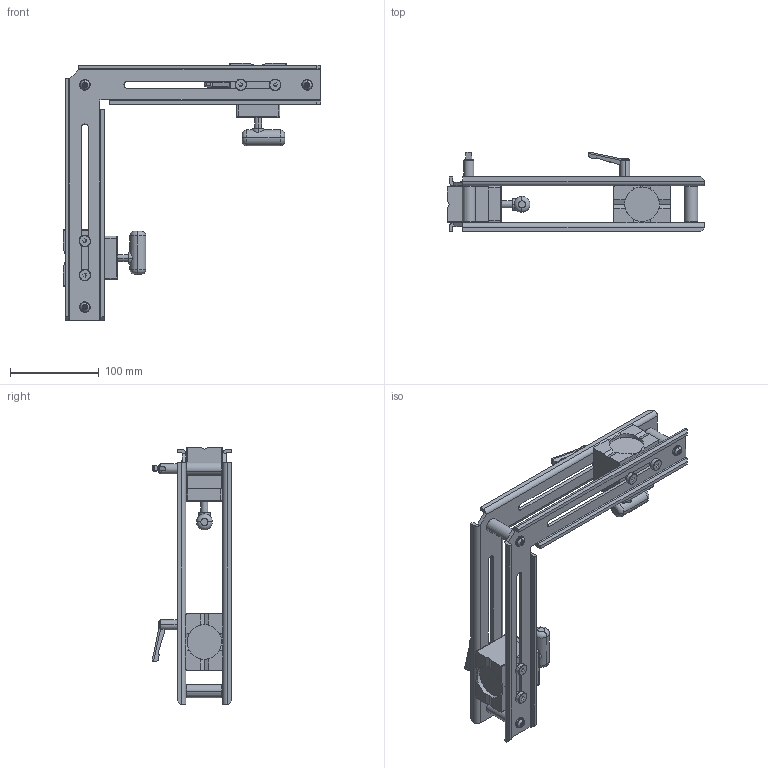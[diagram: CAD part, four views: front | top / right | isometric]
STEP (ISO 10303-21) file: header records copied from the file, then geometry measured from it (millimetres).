
FILE_DESCRIPTION (( 'STEP AP203' ), '1' );
FILE_NAME ('8000454.STEP', '2013-10-02T18:27:21', ( '' ), ( '' ), 'SwSTEP 2.0', 'SolidWorks 2010', '' );
FILE_SCHEMA (( 'CONFIG_CONTROL_DESIGN' ));
Length unit declared in the file: millimetre
Products named in the file (1): 8000454
Bounding box: 289 x 89.3 x 289 mm (x, y, z)
Surface area: 184560.1 mm2 (no closed solid volume)
Topology: 0 solids, 68 shells, 1320 faces, 3245 edges, 1941 vertices
Faces by surface type: cylinder 530, cone 427, plane 335, torus 16, sphere 12
Entity records: 47169 total; most frequent: CARTESIAN_POINT 16769, DIRECTION 6502, ORIENTED_EDGE 5890, EDGE_CURVE 3245, AXIS2_PLACEMENT_3D 2494, VERTEX_POINT 1941, VECTOR 1514, LINE 1514
